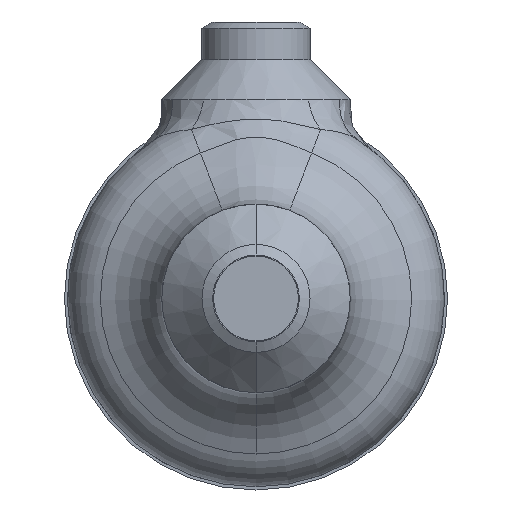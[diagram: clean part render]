
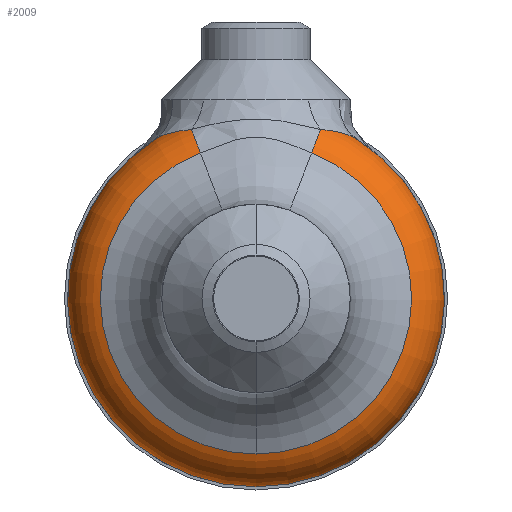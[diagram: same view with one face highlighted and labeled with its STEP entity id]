
A CAD part, front view. The second image highlights one B-rep face of the part: STEP entity #2009.
In plain terms, the highlighted toroidal (fillet/blend) face has major radius 22 mm and minor radius 8 mm.
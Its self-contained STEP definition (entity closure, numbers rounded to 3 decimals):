
#610 = VERTEX_POINT ( 'NONE', #9932 ) ;
#824 = EDGE_CURVE ( 'NONE', #7432, #610, #10060, .T. ) ;
#1198 = ORIENTED_EDGE ( 'NONE', *, *, #9292, .T. ) ;
#1866 = EDGE_CURVE ( 'NONE', #7643, #7432, #13415, .T. ) ;
#1884 = EDGE_LOOP ( 'NONE', ( #1198, #9499, #9431, #11822, #11335, #10487, #9833, #9656 ) ) ;
#2009 = ADVANCED_FACE ( 'NONE', ( #13528 ), #13529, .T. ) ;
#3833 = VERTEX_POINT ( 'NONE', #7873 ) ;
#6533 = CARTESIAN_POINT ( 'NONE',  ( -10.279, -51.237, 26.888 ) ) ;
#6766 = CARTESIAN_POINT ( 'NONE',  ( 0., -47., -30. ) ) ;
#6782 = CARTESIAN_POINT ( 'NONE',  ( 0., -54.5, -24.783 ) ) ;
#7250 = CIRCLE ( 'NONE', #7251, 24.783 ) ;
#7251 = AXIS2_PLACEMENT_3D ( 'NONE', #7252, #7253, #7254 ) ;
#7252 = CARTESIAN_POINT ( 'NONE',  ( 0., -54.5, 0. ) ) ;
#7253 = DIRECTION ( 'NONE',  ( 0., 1., 0. ) ) ;
#7254 = DIRECTION ( 'NONE',  ( 0., 0., 1. ) ) ;
#7301 = CARTESIAN_POINT ( 'NONE',  ( 16.145, -47., 25.285 ) ) ;
#7432 = VERTEX_POINT ( 'NONE', #6766 ) ;
#7643 = VERTEX_POINT ( 'NONE', #7301 ) ;
#7873 = CARTESIAN_POINT ( 'NONE',  ( 10.279, -51.237, 26.888 ) ) ;
#8061 = CIRCLE ( 'NONE', #8062, 8. ) ;
#8062 = AXIS2_PLACEMENT_3D ( 'NONE', #8063, #8064, #8065 ) ;
#8063 = CARTESIAN_POINT ( 'NONE',  ( 7.856, -47., 20.55 ) ) ;
#8064 = DIRECTION ( 'NONE',  ( 0.934, 0., -0.357 ) ) ;
#8065 = DIRECTION ( 'NONE',  ( 0.357, 0., 0.934 ) ) ;
#8780 = B_SPLINE_CURVE_WITH_KNOTS ( 'NONE', 3,
 ( #8781, #8782, #8783, #8784, #8785, #8786, #8787, #8788, #8789, #8790, #8791, #8792 ),
 .UNSPECIFIED., .F., .F.,
 ( 4, 2, 2, 2, 2, 4 ),
 ( 0.074, 0.075, 0.076, 0.078, 0.079, 0.081 ),
 .UNSPECIFIED. ) ;
#8781 = CARTESIAN_POINT ( 'NONE',  ( 16.145, -47., 25.285 ) ) ;
#8782 = CARTESIAN_POINT ( 'NONE',  ( 15.959, -47.221, 25.404 ) ) ;
#8783 = CARTESIAN_POINT ( 'NONE',  ( 15.762, -47.437, 25.516 ) ) ;
#8784 = CARTESIAN_POINT ( 'NONE',  ( 15.348, -47.86, 25.727 ) ) ;
#8785 = CARTESIAN_POINT ( 'NONE',  ( 15.131, -48.067, 25.826 ) ) ;
#8786 = CARTESIAN_POINT ( 'NONE',  ( 14.463, -48.667, 26.099 ) ) ;
#8787 = CARTESIAN_POINT ( 'NONE',  ( 13.991, -49.041, 26.253 ) ) ;
#8788 = CARTESIAN_POINT ( 'NONE',  ( 13.003, -49.746, 26.51 ) ) ;
#8789 = CARTESIAN_POINT ( 'NONE',  ( 12.486, -50.076, 26.614 ) ) ;
#8790 = CARTESIAN_POINT ( 'NONE',  ( 11.409, -50.693, 26.78 ) ) ;
#8791 = CARTESIAN_POINT ( 'NONE',  ( 10.85, -50.978, 26.843 ) ) ;
#8792 = CARTESIAN_POINT ( 'NONE',  ( 10.279, -51.237, 26.888 ) ) ;
#9078 = VERTEX_POINT ( 'NONE', #9737 ) ;
#9292 = EDGE_CURVE ( 'NONE', #9078, #13127, #9801, .T. ) ;
#9431 = ORIENTED_EDGE ( 'NONE', *, *, #824, .F. ) ;
#9475 = EDGE_CURVE ( 'NONE', #13127, #610, #11640, .T. ) ;
#9496 = VERTEX_POINT ( 'NONE', #12295 ) ;
#9499 = ORIENTED_EDGE ( 'NONE', *, *, #9475, .T. ) ;
#9611 = VERTEX_POINT ( 'NONE', #6782 ) ;
#9618 = EDGE_CURVE ( 'NONE', #9611, #9078, #7250, .T. ) ;
#9656 = ORIENTED_EDGE ( 'NONE', *, *, #9618, .T. ) ;
#9737 = CARTESIAN_POINT ( 'NONE',  ( -8.849, -54.5, 23.149 ) ) ;
#9801 = CIRCLE ( 'NONE', #9802, 8. ) ;
#9802 = AXIS2_PLACEMENT_3D ( 'NONE', #9803, #9804, #9805 ) ;
#9803 = CARTESIAN_POINT ( 'NONE',  ( -7.856, -47., 20.55 ) ) ;
#9804 = DIRECTION ( 'NONE',  ( -0.934, 0., -0.357 ) ) ;
#9805 = DIRECTION ( 'NONE',  ( -0.357, 0., 0.934 ) ) ;
#9833 = ORIENTED_EDGE ( 'NONE', *, *, #11855, .T. ) ;
#9932 = CARTESIAN_POINT ( 'NONE',  ( -16.145, -47., 25.285 ) ) ;
#10060 = CIRCLE ( 'NONE', #10061, 30. ) ;
#10061 = AXIS2_PLACEMENT_3D ( 'NONE', #10062, #10063, #10064 ) ;
#10062 = CARTESIAN_POINT ( 'NONE',  ( 0., -47., 0. ) ) ;
#10063 = DIRECTION ( 'NONE',  ( 0., 1., 0. ) ) ;
#10064 = DIRECTION ( 'NONE',  ( 0., 0., 1. ) ) ;
#10487 = ORIENTED_EDGE ( 'NONE', *, *, #14406, .T. ) ;
#10981 = EDGE_CURVE ( 'NONE', #7643, #3833, #8780, .T. ) ;
#11335 = ORIENTED_EDGE ( 'NONE', *, *, #10981, .T. ) ;
#11640 = B_SPLINE_CURVE_WITH_KNOTS ( 'NONE', 3,
 ( #11641, #11642, #11643, #11644, #11645, #11646, #11647, #11649, #11650, #11651, #11652, #11653 ),
 .UNSPECIFIED., .F., .F.,
 ( 4, 2, 2, 2, 2, 4 ),
 ( 0., 0.002, 0.004, 0.006, 0.007, 0.007 ),
 .UNSPECIFIED. ) ;
#11641 = CARTESIAN_POINT ( 'NONE',  ( -10.279, -51.237, 26.888 ) ) ;
#11642 = CARTESIAN_POINT ( 'NONE',  ( -10.849, -50.979, 26.843 ) ) ;
#11643 = CARTESIAN_POINT ( 'NONE',  ( -11.402, -50.696, 26.781 ) ) ;
#11644 = CARTESIAN_POINT ( 'NONE',  ( -12.476, -50.082, 26.616 ) ) ;
#11645 = CARTESIAN_POINT ( 'NONE',  ( -12.998, -49.75, 26.511 ) ) ;
#11646 = CARTESIAN_POINT ( 'NONE',  ( -13.995, -49.038, 26.252 ) ) ;
#11647 = CARTESIAN_POINT ( 'NONE',  ( -14.468, -48.662, 26.097 ) ) ;
#11649 = CARTESIAN_POINT ( 'NONE',  ( -15.133, -48.065, 25.825 ) ) ;
#11650 = CARTESIAN_POINT ( 'NONE',  ( -15.348, -47.86, 25.727 ) ) ;
#11651 = CARTESIAN_POINT ( 'NONE',  ( -15.761, -47.438, 25.517 ) ) ;
#11652 = CARTESIAN_POINT ( 'NONE',  ( -15.959, -47.221, 25.404 ) ) ;
#11653 = CARTESIAN_POINT ( 'NONE',  ( -16.145, -47., 25.285 ) ) ;
#11683 = CIRCLE ( 'NONE', #11684, 24.783 ) ;
#11684 = AXIS2_PLACEMENT_3D ( 'NONE', #11685, #11686, #11687 ) ;
#11685 = CARTESIAN_POINT ( 'NONE',  ( 0., -54.5, 0. ) ) ;
#11686 = DIRECTION ( 'NONE',  ( 0., 1., 0. ) ) ;
#11687 = DIRECTION ( 'NONE',  ( 0., 0., 1. ) ) ;
#11822 = ORIENTED_EDGE ( 'NONE', *, *, #1866, .F. ) ;
#11855 = EDGE_CURVE ( 'NONE', #9496, #9611, #11683, .T. ) ;
#12295 = CARTESIAN_POINT ( 'NONE',  ( 8.849, -54.5, 23.149 ) ) ;
#13127 = VERTEX_POINT ( 'NONE', #6533 ) ;
#13415 = CIRCLE ( 'NONE', #13416, 30. ) ;
#13416 = AXIS2_PLACEMENT_3D ( 'NONE', #13417, #13418, #13419 ) ;
#13417 = CARTESIAN_POINT ( 'NONE',  ( 0., -47., 0. ) ) ;
#13418 = DIRECTION ( 'NONE',  ( 0., 1., 0. ) ) ;
#13419 = DIRECTION ( 'NONE',  ( 0., 0., 1. ) ) ;
#13528 = FACE_OUTER_BOUND ( 'NONE', #1884, .T. ) ;
#13529 = TOROIDAL_SURFACE ( 'NONE', #13530, 22., 8. ) ;
#13530 = AXIS2_PLACEMENT_3D ( 'NONE', #13531, #13532, #13533 ) ;
#13531 = CARTESIAN_POINT ( 'NONE',  ( 0., -47., 0. ) ) ;
#13532 = DIRECTION ( 'NONE',  ( 0., 1., 0. ) ) ;
#13533 = DIRECTION ( 'NONE',  ( 0., 0., 1. ) ) ;
#14406 = EDGE_CURVE ( 'NONE', #3833, #9496, #8061, .T. ) ;
